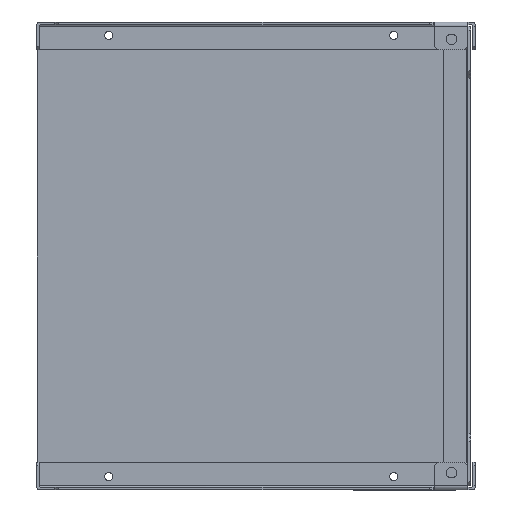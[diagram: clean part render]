
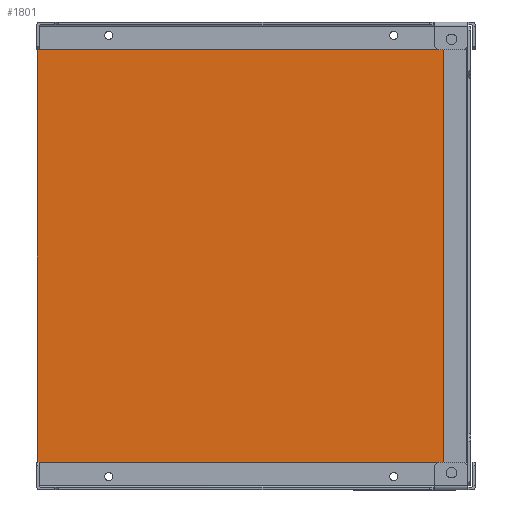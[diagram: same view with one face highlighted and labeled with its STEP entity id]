
A CAD part, front view. The second image highlights one B-rep face of the part: STEP entity #1801.
In plain terms, the highlighted planar face has unit normal (0, -1, 0) as drawn and (0, 0, 1) by its records, which use the part's own axes.
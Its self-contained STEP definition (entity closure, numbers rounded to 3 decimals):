
#366=CARTESIAN_POINT(' ',(71.25,-114.5,0.));
#367=VERTEX_POINT(' ',#366);
#381=CARTESIAN_POINT(' ',(74.,-114.5,0.));
#386=DIRECTION(' ',(0.,-0.,1.));
#391=DIRECTION(' ',(-1.,0.,0.));
#396=AXIS2_PLACEMENT_3D(' ',#381,#386,#391);
#401=CIRCLE('',#396,2.75);
#406=CARTESIAN_POINT(' ',(76.75,-114.5,0.));
#407=VERTEX_POINT(' ',#406);
#411=EDGE_CURVE(' ',#367,#407,#401,.T.);
#1146=CARTESIAN_POINT(' ',(74.,-114.5,0.));
#1151=DIRECTION(' ',(0.,0.,1.));
#1156=DIRECTION(' ',(1.,0.,0.));
#1161=AXIS2_PLACEMENT_3D(' ',#1146,#1151,#1156);
#1166=CIRCLE('',#1161,2.75);
#1171=EDGE_CURVE(' ',#407,#367,#1166,.T.);
#1196=DIRECTION(' ',(-0.,0.,1.));
#1201=CARTESIAN_POINT(' ',(-111.,-121.5,0.));
#1206=DIRECTION(' ',(1.,0.,0.));
#1211=AXIS2_PLACEMENT_3D(' ',#1201,#1196,#1206);
#1216=PLANE('NONE',#1211);
#1221=CARTESIAN_POINT(' ',(-111.,116.5,0.));
#1226=DIRECTION(' ',(0.,-1.,0.));
#1231=VECTOR(' ',#1226,1.);
#1236=LINE('',#1221,#1231);
#1241=CARTESIAN_POINT(' ',(-111.,116.5,0.));
#1242=VERTEX_POINT(' ',#1241);
#1246=CARTESIAN_POINT(' ',(-111.,-116.5,0.));
#1247=VERTEX_POINT(' ',#1246);
#1251=EDGE_CURVE(' ',#1242,#1247,#1236,.T.);
#1256=ORIENTED_EDGE(' ',*,*,#1251,.T.);
#1261=CARTESIAN_POINT(' ',(-111.,-116.5,0.));
#1266=DIRECTION(' ',(0.707,-0.707,0.));
#1271=VECTOR(' ',#1266,1.);
#1276=LINE('',#1261,#1271);
#1281=CARTESIAN_POINT(' ',(-106.,-121.5,0.));
#1282=VERTEX_POINT(' ',#1281);
#1286=EDGE_CURVE(' ',#1247,#1282,#1276,.T.);
#1291=ORIENTED_EDGE(' ',*,*,#1286,.T.);
#1296=CARTESIAN_POINT(' ',(-106.,-121.5,0.));
#1301=DIRECTION(' ',(1.,0.,0.));
#1306=VECTOR(' ',#1301,1.);
#1311=LINE('',#1296,#1306);
#1316=CARTESIAN_POINT(' ',(106.,-121.5,0.));
#1317=VERTEX_POINT(' ',#1316);
#1321=EDGE_CURVE(' ',#1282,#1317,#1311,.T.);
#1326=ORIENTED_EDGE(' ',*,*,#1321,.T.);
#1331=CARTESIAN_POINT(' ',(106.,-121.5,0.));
#1336=DIRECTION(' ',(0.707,0.707,0.));
#1341=VECTOR(' ',#1336,1.);
#1346=LINE('',#1331,#1341);
#1351=CARTESIAN_POINT(' ',(111.,-116.5,0.));
#1352=VERTEX_POINT(' ',#1351);
#1356=EDGE_CURVE(' ',#1317,#1352,#1346,.T.);
#1361=ORIENTED_EDGE(' ',*,*,#1356,.T.);
#1366=CARTESIAN_POINT(' ',(111.,-116.5,0.));
#1371=DIRECTION(' ',(0.,1.,0.));
#1376=VECTOR(' ',#1371,1.);
#1381=LINE('',#1366,#1376);
#1386=CARTESIAN_POINT(' ',(111.,116.5,0.));
#1387=VERTEX_POINT(' ',#1386);
#1391=EDGE_CURVE(' ',#1352,#1387,#1381,.T.);
#1396=ORIENTED_EDGE(' ',*,*,#1391,.T.);
#1401=CARTESIAN_POINT(' ',(111.,116.5,0.));
#1406=DIRECTION(' ',(-0.707,0.707,0.));
#1411=VECTOR(' ',#1406,1.);
#1416=LINE('',#1401,#1411);
#1421=CARTESIAN_POINT(' ',(106.,121.5,0.));
#1422=VERTEX_POINT(' ',#1421);
#1426=EDGE_CURVE(' ',#1387,#1422,#1416,.T.);
#1431=ORIENTED_EDGE(' ',*,*,#1426,.T.);
#1436=CARTESIAN_POINT(' ',(106.,121.5,0.));
#1441=DIRECTION(' ',(-1.,0.,0.));
#1446=VECTOR(' ',#1441,1.);
#1451=LINE('',#1436,#1446);
#1456=CARTESIAN_POINT(' ',(-106.,121.5,0.));
#1457=VERTEX_POINT(' ',#1456);
#1461=EDGE_CURVE(' ',#1422,#1457,#1451,.T.);
#1466=ORIENTED_EDGE(' ',*,*,#1461,.T.);
#1471=CARTESIAN_POINT(' ',(-106.,121.5,0.));
#1476=DIRECTION(' ',(-0.707,-0.707,0.));
#1481=VECTOR(' ',#1476,1.);
#1486=LINE('',#1471,#1481);
#1491=EDGE_CURVE(' ',#1457,#1242,#1486,.T.);
#1496=ORIENTED_EDGE(' ',*,*,#1491,.T.);
#1501=EDGE_LOOP(' ',(#1256,#1291,#1326,#1361,#1396,#1431,#1466,#1496));
#1506=FACE_OUTER_BOUND(' ',#1501,.T.);
#1511=ORIENTED_EDGE(' ',*,*,#1171,.F.);
#1516=ORIENTED_EDGE(' ',*,*,#411,.F.);
#1521=EDGE_LOOP(' ',(#1511,#1516));
#1526=FACE_BOUND(' ',#1521,.T.);
#1531=CARTESIAN_POINT(' ',(74.,114.5,0.));
#1536=DIRECTION(' ',(0.,0.,1.));
#1541=DIRECTION(' ',(1.,0.,0.));
#1546=AXIS2_PLACEMENT_3D(' ',#1531,#1536,#1541);
#1551=CIRCLE('',#1546,2.75);
#1556=CARTESIAN_POINT(' ',(76.75,114.5,0.));
#1557=VERTEX_POINT(' ',#1556);
#1561=CARTESIAN_POINT(' ',(71.25,114.5,0.));
#1562=VERTEX_POINT(' ',#1561);
#1566=EDGE_CURVE(' ',#1557,#1562,#1551,.T.);
#1571=ORIENTED_EDGE(' ',*,*,#1566,.F.);
#1576=CARTESIAN_POINT(' ',(74.,114.5,0.));
#1581=DIRECTION(' ',(0.,-0.,1.));
#1586=DIRECTION(' ',(-1.,0.,0.));
#1591=AXIS2_PLACEMENT_3D(' ',#1576,#1581,#1586);
#1596=CIRCLE('',#1591,2.75);
#1601=EDGE_CURVE(' ',#1562,#1557,#1596,.T.);
#1606=ORIENTED_EDGE(' ',*,*,#1601,.F.);
#1611=EDGE_LOOP(' ',(#1571,#1606));
#1616=FACE_BOUND(' ',#1611,.T.);
#1621=CARTESIAN_POINT(' ',(-74.,114.5,0.));
#1626=DIRECTION(' ',(0.,0.,1.));
#1631=DIRECTION(' ',(1.,0.,0.));
#1636=AXIS2_PLACEMENT_3D(' ',#1621,#1626,#1631);
#1641=CIRCLE('',#1636,2.75);
#1646=CARTESIAN_POINT(' ',(-71.25,114.5,0.));
#1647=VERTEX_POINT(' ',#1646);
#1651=CARTESIAN_POINT(' ',(-76.75,114.5,0.));
#1652=VERTEX_POINT(' ',#1651);
#1656=EDGE_CURVE(' ',#1647,#1652,#1641,.T.);
#1661=ORIENTED_EDGE(' ',*,*,#1656,.F.);
#1666=CARTESIAN_POINT(' ',(-74.,114.5,0.));
#1671=DIRECTION(' ',(0.,-0.,1.));
#1676=DIRECTION(' ',(-1.,0.,0.));
#1681=AXIS2_PLACEMENT_3D(' ',#1666,#1671,#1676);
#1686=CIRCLE('',#1681,2.75);
#1691=EDGE_CURVE(' ',#1652,#1647,#1686,.T.);
#1696=ORIENTED_EDGE(' ',*,*,#1691,.F.);
#1701=EDGE_LOOP(' ',(#1661,#1696));
#1706=FACE_BOUND(' ',#1701,.T.);
#1711=CARTESIAN_POINT(' ',(-74.,-114.5,0.));
#1716=DIRECTION(' ',(0.,0.,1.));
#1721=DIRECTION(' ',(1.,0.,0.));
#1726=AXIS2_PLACEMENT_3D(' ',#1711,#1716,#1721);
#1731=CIRCLE('',#1726,2.75);
#1736=CARTESIAN_POINT(' ',(-71.25,-114.5,0.));
#1737=VERTEX_POINT(' ',#1736);
#1741=CARTESIAN_POINT(' ',(-76.75,-114.5,0.));
#1742=VERTEX_POINT(' ',#1741);
#1746=EDGE_CURVE(' ',#1737,#1742,#1731,.T.);
#1751=ORIENTED_EDGE(' ',*,*,#1746,.F.);
#1756=CARTESIAN_POINT(' ',(-74.,-114.5,0.));
#1761=DIRECTION(' ',(0.,-0.,1.));
#1766=DIRECTION(' ',(-1.,0.,0.));
#1771=AXIS2_PLACEMENT_3D(' ',#1756,#1761,#1766);
#1776=CIRCLE('',#1771,2.75);
#1781=EDGE_CURVE(' ',#1742,#1737,#1776,.T.);
#1786=ORIENTED_EDGE(' ',*,*,#1781,.F.);
#1791=EDGE_LOOP(' ',(#1751,#1786));
#1796=FACE_BOUND(' ',#1791,.T.);
#1801=ADVANCED_FACE('NONE',(#1506,#1526,#1616,#1706,#1796),#1216,.T.);
